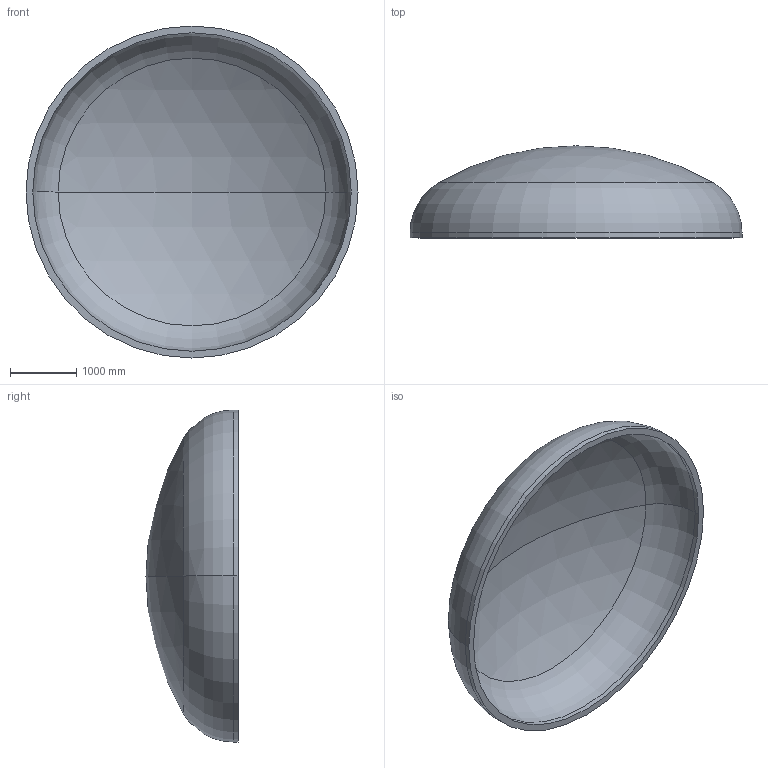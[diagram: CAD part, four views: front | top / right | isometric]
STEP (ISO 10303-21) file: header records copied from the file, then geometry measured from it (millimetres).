
FILE_DESCRIPTION (( 'STEP AP203' ), '1' );
FILE_NAME ('DIN 28013 Korbbogenform_-_Boden DIN 28013 - 5000 x 75 - I - s=102.step', '2016-07-02T00:56:26', ( '' ), ( '' ), 'SwSTEP 2.0', 'SolidWorks 2013', '' );
FILE_SCHEMA (( 'CONFIG_CONTROL_DESIGN' ));
Length unit declared in the file: millimetre
Products named in the file (1): DIN 28013 Korbbogenform_-_Boden DIN 28013 - 5000 x 75 - I - s=102
Bounding box: 5000 x 1387.28 x 5000 mm (x, y, z)
Volume: 2818032254.8 mm3; surface area: 56846831.4 mm2
Topology: 1 solids, 1 shells, 13 faces, 24 edges, 14 vertices
Faces by surface type: torus 4, cylinder 4, sphere 4, plane 1
Entity records: 407 total; most frequent: DIRECTION 72, CARTESIAN_POINT 52, ORIENTED_EDGE 48, AXIS2_PLACEMENT_3D 34, EDGE_CURVE 24, CIRCLE 20, VERTEX_POINT 14, EDGE_LOOP 14
